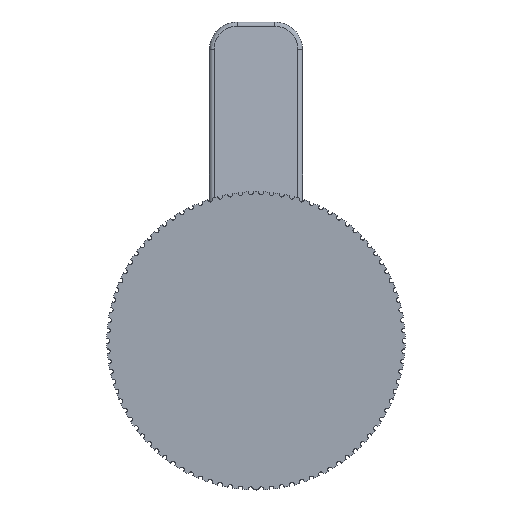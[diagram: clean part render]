
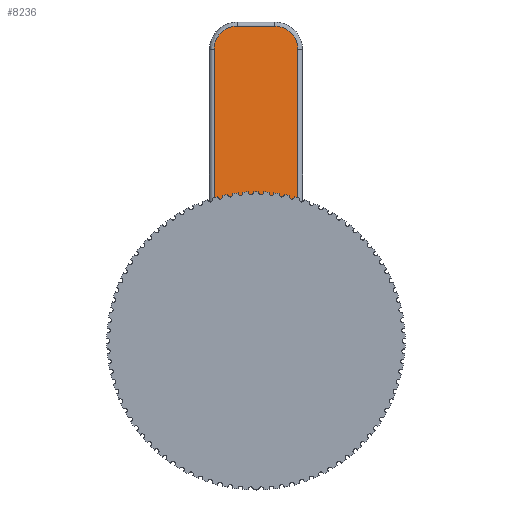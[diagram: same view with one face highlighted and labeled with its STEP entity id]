
A CAD part, front view. The second image highlights one B-rep face of the part: STEP entity #8236.
In plain terms, the highlighted planar face has unit normal (0, -0.993, 0.119).
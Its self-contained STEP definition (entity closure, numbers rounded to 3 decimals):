
#38 = CARTESIAN_POINT ( 'NONE',  ( -4., 55.847, 67.524 ) ) ;
#478 = VERTEX_POINT ( 'NONE', #23990 ) ;
#1106 = LINE ( 'NONE', #20631, #15424 ) ;
#1439 = CARTESIAN_POINT ( 'NONE',  ( 5.175, 48.121, 3.037 ) ) ;
#2055 = VERTEX_POINT ( 'NONE', #6554 ) ;
#2542 = DIRECTION ( 'NONE',  ( -1., 0., 0. ) ) ;
#2759 = CARTESIAN_POINT ( 'NONE',  ( -9., 55.252, 62.56 ) ) ;
#3800 = VERTEX_POINT ( 'NONE', #14407 ) ;
#3832 = EDGE_CURVE ( 'NONE', #20690, #478, #16491, .T. ) ;
#3877 = DIRECTION ( 'NONE',  ( 0., 0.119, 0.993 ) ) ;
#4005 = CARTESIAN_POINT ( 'NONE',  ( 2.571, 48.652, 7.472 ) ) ;
#4191 = CARTESIAN_POINT ( 'NONE',  ( -2.571, 48.652, 7.472 ) ) ;
#4547 = PLANE ( 'NONE',  #12482 ) ;
#4956 = VECTOR ( 'NONE', #3877, 1000. ) ;
#5802 = EDGE_CURVE ( 'NONE', #2055, #20690, #1106, .T. ) ;
#6277 = VECTOR ( 'NONE', #7747, 1000. ) ;
#6301 = VECTOR ( 'NONE', #2542, 1000. ) ;
#6554 = CARTESIAN_POINT ( 'NONE',  ( 9., 55.252, 62.56 ) ) ;
#6809 = VERTEX_POINT ( 'NONE', #34166 ) ;
#7747 = DIRECTION ( 'NONE',  ( 1., 0., 0. ) ) ;
#7761 = ORIENTED_EDGE ( 'NONE', *, *, #24231, .F. ) ;
#8236 = ADVANCED_FACE ( 'NONE', ( #18975 ), #4547, .F. ) ;
#9928 = LINE ( 'NONE', #26529, #4956 ) ;
#10594 = DIRECTION ( 'NONE',  ( 0., -0.119, -0.993 ) ) ;
#11095 = ORIENTED_EDGE ( 'NONE', *, *, #16757, .F. ) ;
#12288 = DIRECTION ( 'NONE',  ( 0., -0.119, -0.993 ) ) ;
#12482 = AXIS2_PLACEMENT_3D ( 'NONE', #35613, #26999, #10594 ) ;
#12825 = EDGE_CURVE ( 'NONE', #24466, #14177, #9928, .T. ) ;
#13589 = CARTESIAN_POINT ( 'NONE',  ( 9., 55.252, 62.56 ) ) ;
#14177 = VERTEX_POINT ( 'NONE', #17723 ) ;
#14407 = CARTESIAN_POINT ( 'NONE',  ( -4., 55.847, 67.524 ) ) ;
#14534 = EDGE_CURVE ( 'NONE', #6809, #24466, #20743, .T. ) ;
#15424 = VECTOR ( 'NONE', #12288, 1000. ) ;
#16491 = LINE ( 'NONE', #27578, #6301 ) ;
#16703 = EDGE_CURVE ( 'NONE', #14177, #3800, #30820, .T. ) ;
#16757 = EDGE_CURVE ( 'NONE', #31262, #2055, #19401, .T. ) ;
#17189 = ORIENTED_EDGE ( 'NONE', *, *, #14534, .F. ) ;
#17360 = CARTESIAN_POINT ( 'NONE',  ( 4., 55.847, 67.524 ) ) ;
#17723 = CARTESIAN_POINT ( 'NONE',  ( -9., 55.252, 62.56 ) ) ;
#17856 = EDGE_CURVE ( 'NONE', #6809, #478, #33377, .T. ) ;
#17955 = ORIENTED_EDGE ( 'NONE', *, *, #16703, .F. ) ;
#18684 = CARTESIAN_POINT ( 'NONE',  ( 10., 55.847, 67.524 ) ) ;
#18975 = FACE_OUTER_BOUND ( 'NONE', #23024, .T. ) ;
#19389 = LINE ( 'NONE', #18684, #6277 ) ;
#19401 =( BOUNDED_CURVE ( )  B_SPLINE_CURVE ( 3, ( #22488, #33640, #19756, #13589 ),
 .UNSPECIFIED., .F., .F. ) 
 B_SPLINE_CURVE_WITH_KNOTS ( ( 4, 4 ),
 ( 0., 1. ),
 .UNSPECIFIED. ) 
 CURVE ( )  GEOMETRIC_REPRESENTATION_ITEM ( )  RATIONAL_B_SPLINE_CURVE ( ( 1., 0.805, 0.805, 1. ) ) 
 REPRESENTATION_ITEM ( '' )  );
#19404 = CARTESIAN_POINT ( 'NONE',  ( -6.929, 55.847, 67.524 ) ) ;
#19756 = CARTESIAN_POINT ( 'NONE',  ( 9., 55.6, 65.468 ) ) ;
#20297 = ORIENTED_EDGE ( 'NONE', *, *, #5802, .F. ) ;
#20631 = CARTESIAN_POINT ( 'NONE',  ( 9., 55.966, 68.517 ) ) ;
#20690 = VERTEX_POINT ( 'NONE', #26072 ) ;
#20743 = LINE ( 'NONE', #28804, #28160 ) ;
#22488 = CARTESIAN_POINT ( 'NONE',  ( 4., 55.847, 67.524 ) ) ;
#23024 = EDGE_LOOP ( 'NONE', ( #17189, #28049, #27787, #20297, #11095, #7761, #17955, #27741 ) ) ;
#23887 = CARTESIAN_POINT ( 'NONE',  ( -5.175, 48.121, 3.037 ) ) ;
#23990 = CARTESIAN_POINT ( 'NONE',  ( 5.175, 48.121, 3.037 ) ) ;
#24090 = CARTESIAN_POINT ( 'NONE',  ( -9., 48.121, 3.037 ) ) ;
#24231 = EDGE_CURVE ( 'NONE', #3800, #31262, #19389, .T. ) ;
#24466 = VERTEX_POINT ( 'NONE', #24090 ) ;
#26072 = CARTESIAN_POINT ( 'NONE',  ( 9., 48.121, 3.037 ) ) ;
#26529 = CARTESIAN_POINT ( 'NONE',  ( -9., 55.966, 68.517 ) ) ;
#26999 = DIRECTION ( 'NONE',  ( 0., 0.993, -0.119 ) ) ;
#27578 = CARTESIAN_POINT ( 'NONE',  ( 10., 48.121, 3.037 ) ) ;
#27741 = ORIENTED_EDGE ( 'NONE', *, *, #12825, .F. ) ;
#27787 = ORIENTED_EDGE ( 'NONE', *, *, #3832, .F. ) ;
#28049 = ORIENTED_EDGE ( 'NONE', *, *, #17856, .T. ) ;
#28160 = VECTOR ( 'NONE', #31353, 1000. ) ;
#28804 = CARTESIAN_POINT ( 'NONE',  ( 10., 48.121, 3.037 ) ) ;
#30820 =( BOUNDED_CURVE ( )  B_SPLINE_CURVE ( 3, ( #2759, #33465, #19404, #38 ),
 .UNSPECIFIED., .F., .F. ) 
 B_SPLINE_CURVE_WITH_KNOTS ( ( 4, 4 ),
 ( 0., 1. ),
 .UNSPECIFIED. ) 
 CURVE ( )  GEOMETRIC_REPRESENTATION_ITEM ( )  RATIONAL_B_SPLINE_CURVE ( ( 1., 0.805, 0.805, 1. ) ) 
 REPRESENTATION_ITEM ( '' )  );
#31262 = VERTEX_POINT ( 'NONE', #17360 ) ;
#31353 = DIRECTION ( 'NONE',  ( -1., 0., 0. ) ) ;
#33377 =( BOUNDED_CURVE ( )  B_SPLINE_CURVE ( 3, ( #23887, #4191, #4005, #1439 ),
 .UNSPECIFIED., .F., .F. ) 
 B_SPLINE_CURVE_WITH_KNOTS ( ( 4, 4 ),
 ( 2.102, 4.182 ),
 .UNSPECIFIED. ) 
 CURVE ( )  GEOMETRIC_REPRESENTATION_ITEM ( )  RATIONAL_B_SPLINE_CURVE ( ( 1., 0.671, 0.671, 1. ) ) 
 REPRESENTATION_ITEM ( '' )  );
#33465 = CARTESIAN_POINT ( 'NONE',  ( -9., 55.6, 65.468 ) ) ;
#33640 = CARTESIAN_POINT ( 'NONE',  ( 6.929, 55.847, 67.524 ) ) ;
#34166 = CARTESIAN_POINT ( 'NONE',  ( -5.175, 48.121, 3.037 ) ) ;
#35613 = CARTESIAN_POINT ( 'NONE',  ( 10., 55.966, 68.517 ) ) ;
